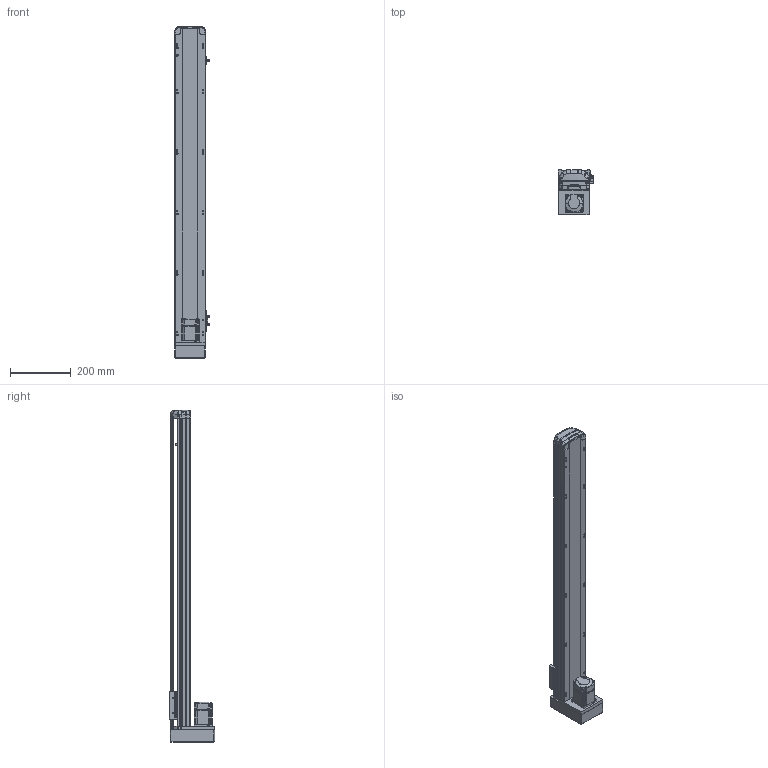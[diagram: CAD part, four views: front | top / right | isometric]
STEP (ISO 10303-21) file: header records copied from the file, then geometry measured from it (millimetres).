
FILE_DESCRIPTION (( 'STEP AP214' ), '1' );
FILE_NAME ('RTH10-XX-850-M-M20-C4.STEP', '2025-10-25T04:52:25', ( 'Microsoft' ), ( 'Microsoft' ), 'SwSTEP 2.0', 'SolidWorks 2018', '' );
FILE_SCHEMA (( 'AUTOMOTIVE_DESIGN' ));
Length unit declared in the file: millimetre
Products named in the file (10): N_RTH12-M-011P-臏倰第菁釱^RTH10-XX-XX-M-M20-C4; RTH10-XX-850-M-M20-C4; N_200W-1^RTH10-XX-XX-M-M20-C4; N_RTH12-GY-004-賑釱^RTH10-XX-XX-M-M20-C4; N_RTH12-GY-001P^RTH10-XX-XX-M-M20-C4; N_OMRON EE-SX672 传感器^RTH10-XX-XX-M-M20-C4; N_RTH12-M-008-萇儂啣^RTH10-XX-XX-M-M20-C4; N_RTH12-M-018-裔赽^RTH10-XX-XX-M-M20-C4; N_RTH13-L-012覜茼え俋离^RTH10-XX-XX-M-M20-C4; N_RTH12-M-007P-奻裔^RTH10-XX-XX-M-M20-C4
Assembly tree (11 placements, depth 2):
  RTH10-XX-850-M-M20-C4
    N_RTH12-M-011P-臏倰第菁釱^RTH10-XX-XX-M-M20-C4
    N_RTH13-L-012覜茼え俋离^RTH10-XX-XX-M-M20-C4
    N_OMRON EE-SX672 传感器^RTH10-XX-XX-M-M20-C4  x3
    N_200W-1^RTH10-XX-XX-M-M20-C4
    N_RTH12-M-007P-奻裔^RTH10-XX-XX-M-M20-C4
    N_RTH12-M-008-萇儂啣^RTH10-XX-XX-M-M20-C4
    N_RTH12-M-018-裔赽^RTH10-XX-XX-M-M20-C4
    N_RTH12-GY-004-賑釱^RTH10-XX-XX-M-M20-C4
    N_RTH12-GY-001P^RTH10-XX-XX-M-M20-C4
Bounding box: 116.5 x 149 x 1097.31 mm (x, y, z)
Volume: 4992660.6 mm3; surface area: 738855.9 mm2
Topology: 10 solids, 12 shells, 2009 faces, 5614 edges, 3687 vertices
Faces by surface type: plane 995, cylinder 507, bspline 472, cone 29, sphere 4, torus 2
Entity records: 60756 total; most frequent: CARTESIAN_POINT 23659, ORIENTED_EDGE 8300, DIRECTION 6464, EDGE_CURVE 4156, VERTEX_POINT 2731, VECTOR 2224, LINE 2224, AXIS2_PLACEMENT_3D 2120
